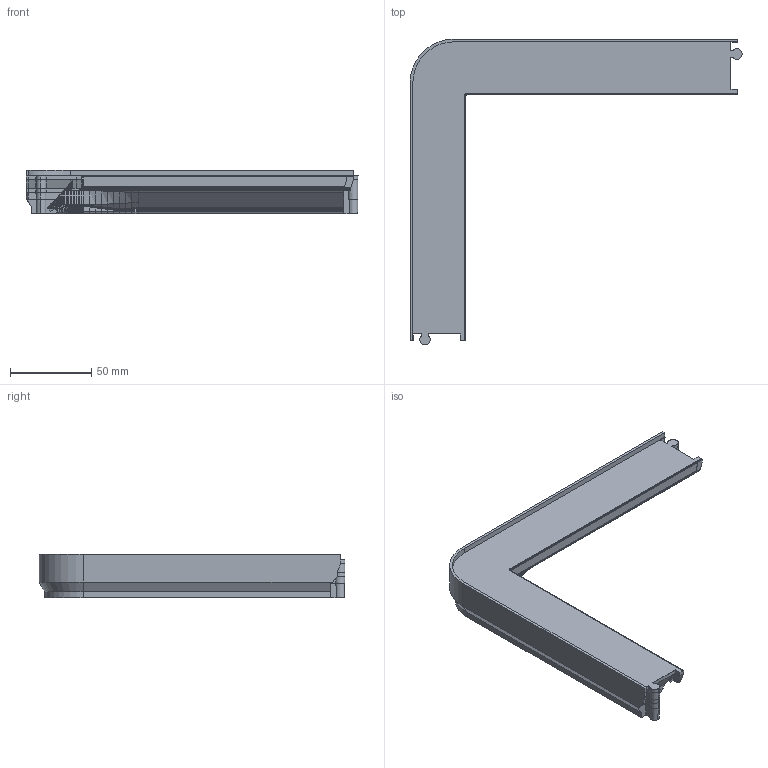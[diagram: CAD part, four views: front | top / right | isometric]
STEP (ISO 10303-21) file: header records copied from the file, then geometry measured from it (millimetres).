
FILE_DESCRIPTION(('Open CASCADE Model'),'2;1');
FILE_NAME('Open CASCADE Shape Model','2026-10-27T10:19:35',('Author'),( 'Open CASCADE'),'Open CASCADE STEP processor 8.0','build123d', 'Unknown');
FILE_SCHEMA(('AUTOMOTIVE_DESIGN { 1 0 10303 214 1 1 1 1 }'));
Products named in the file (1): SOLID
Bounding box: 203.89 x 187.9 x 26.9 mm (x, y, z)
Volume: 188412.9 mm3; surface area: 48156.8 mm2
Topology: 1 solids, 1 shells, 2257 faces, 4801 edges, 2546 vertices
Faces by surface type: bspline 1831, plane 402, cone 16, cylinder 8
Entity records: 116256 total; most frequent: CARTESIAN_POINT 30499, DIRECTION 10909, LINE 9991, VECTOR 9991, ORIENTED_EDGE 9602, PCURVE 9602, DEFINITIONAL_REPRESENTATION 9602, EDGE_CURVE 4801
